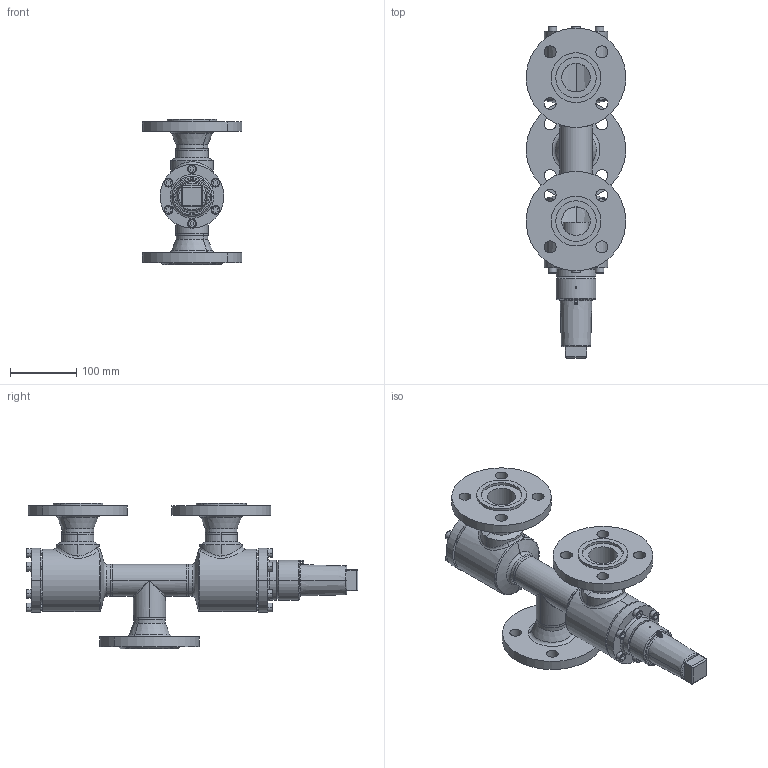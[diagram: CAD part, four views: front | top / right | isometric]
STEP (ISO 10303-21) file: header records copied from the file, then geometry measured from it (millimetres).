
FILE_DESCRIPTION (( 'STEP AP214' ), '1' );
FILE_NAME ('WVR24020D14-DN040_DIN-FL-N-F_PS40.STEP', '2010-09-08T09:17:19', ( 'Eckhard Grams' ), ( 'AWP Kälte Klima Armaturen GmbH' ), 'SwSTEP 2.0', 'SolidWorks 2002296', '' );
FILE_SCHEMA (( 'AUTOMOTIVE_DESIGN' ));
Length unit declared in the file: millimetre
Products named in the file (18): WVR24020D14-DN040_DIN-FL-N-F_PS40; WVB-R23000E15_Deck+Schr-DN40-50_Standard; Deckel23000E15-DN40-50_Standard; Kappe 16402-15_DN40-65 (M52x3)_Standard; AVR26300E15_Deck+Schr-DN40-50_Standard; Deckel26300E15-DN40-50_Standard; Zylinderschraube-DIN912_M 8x  25; Geh,kpl23020E14-DN040_DIN-FL-N-F_PS40_Standard; Flansch-DIN2635-Nut_PS40_DIN-Flansch-DN040_PS40-Nut; Geh,kpl23000E14-DN040_R1_PS40_Standard; Gehäuse23000E14-DN040_R1_PS40_Standard; T-Stück DIN2615_DN 40; bead23000-14-1_Standard; bead23000-14-2_Standard; Flansch-DIN2635-Feder_PS40_DIN-Flansch-DN040_PS40-Feder; bead23020-14-3_Standard; bead23020-14-1_Standard; bead23020-14-2_Standard
Assembly tree (30 placements, depth 4):
  WVR24020D14-DN040_DIN-FL-N-F_PS40
    Kappe 16402-15_DN40-65 (M52x3)_Standard
    AVR26300E15_Deck+Schr-DN40-50_Standard
      Zylinderschraube-DIN912_M 8x  25  x6
      Deckel26300E15-DN40-50_Standard
    WVB-R23000E15_Deck+Schr-DN40-50_Standard
      Deckel23000E15-DN40-50_Standard
      Zylinderschraube-DIN912_M 8x  25  x6
    Geh,kpl23020E14-DN040_DIN-FL-N-F_PS40_Standard
      Flansch-DIN2635-Feder_PS40_DIN-Flansch-DN040_PS40-Feder  x2
      bead23020-14-1_Standard
      bead23020-14-2_Standard
      Geh,kpl23000E14-DN040_R1_PS40_Standard
        Gehäuse23000E14-DN040_R1_PS40_Standard  x2
        bead23000-14-1_Standard
        bead23000-14-2_Standard
        T-Stück DIN2615_DN 40
      bead23020-14-3_Standard
      Flansch-DIN2635-Nut_PS40_DIN-Flansch-DN040_PS40-Nut
Bounding box: 149.43 x 500 x 219 mm (x, y, z)
Volume: 1949660.1 mm3; surface area: 442486.1 mm2
Topology: 26 solids, 26 shells, 601 faces, 1361 edges, 843 vertices
Faces by surface type: cylinder 226, plane 187, cone 97, torus 55, bspline 36
Entity records: 34603 total; most frequent: CARTESIAN_POINT 25801, DIRECTION 1694, ORIENTED_EDGE 1584, EDGE_CURVE 792, AXIS2_PLACEMENT_3D 720, VERTEX_POINT 490, EDGE_LOOP 416, CIRCLE 378
